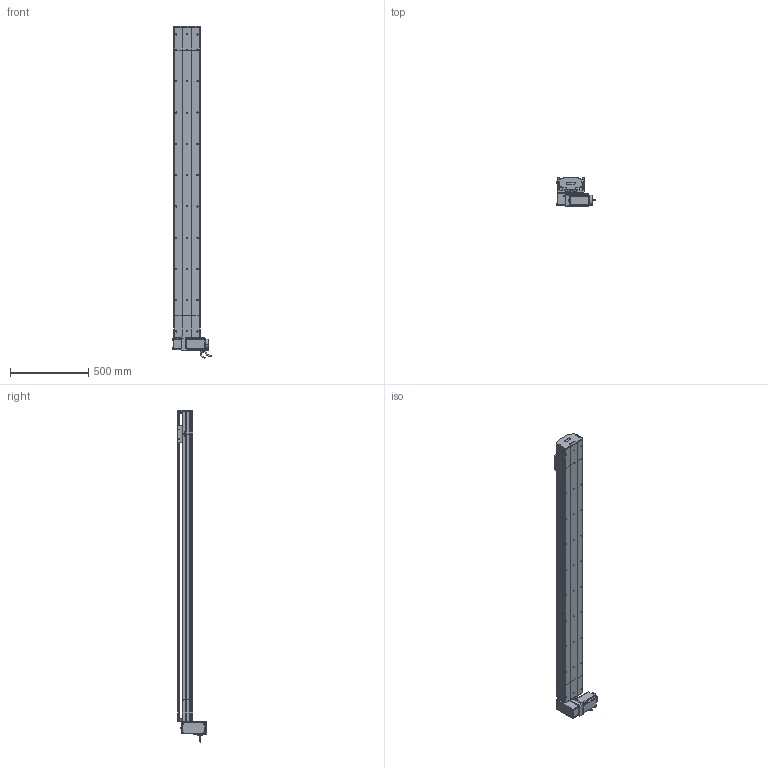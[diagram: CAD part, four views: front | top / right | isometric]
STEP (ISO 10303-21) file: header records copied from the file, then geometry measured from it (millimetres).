
FILE_DESCRIPTION (( 'STEP AP214' ), '1' );
FILE_NAME ('D17 TBN RU S1700.STEP', '2010-06-30T11:06:36', ( 'Christophe Gaillard' ), ( 'SGA' ), 'SwSTEP 2.0', 'SolidWorks 2010', '' );
FILE_SCHEMA (( 'AUTOMOTIVE_DESIGN' ));
Length unit declared in the file: millimetre
Products named in the file (40): poulie head_Default; couroie head D17_Default; avant 90BLDC125A-640; Moteur motionking 90BLDC125A-640; codeur 90BLDC125-640; corps 90BLDC125A-640; Tail D17B+100_Default; Renvoi RU_Default; tete d''axe poulie D17B; corp tail D17B+100_Default; plaque de  bout tail D17B_Default; Rail D17B; poulie tail_Default; Couroie tail D17B_Default; vis M5 L12_Default; couvercle D17B_Default; vis M5 L8 90°_Default; vis M5 L25_Default; chariot D17 TBN; D17 TBN RU S1700; course 1700 D17B_Default; Couroie+ rail D17 Course 1700 ; guide D17; corp D17B 1700_Default; Conecteur2_Default; Conecteur_Default; vis M5 L70_Default; Plaque racord D17_Default; vis M5 L16_Default; Vis M5 L16-2_Default; cache arbre D17_Default; Chariot D17 TBN; couvercle D17B course L1700_Default; Head RU D17B_Default; corpl head D17 _Default; couvercle D17B head_Default; plaque de  bout head D17B RU_Default; Arbre+rail head D17B; cache D17_Default; vis M5 L5_Default
Assembly tree (66 placements, depth 4):
  D17 TBN RU S1700
    course 1700 D17B_Default
      Couroie+ rail D17 Course 1700 
      corp D17B 1700_Default
      couvercle D17B course L1700_Default
    Head RU D17B_Default
      poulie head_Default
      vis M5 L12_Default  x8
      couroie head D17_Default
      vis M5 L5_Default  x4
      couvercle D17B head_Default
      cache arbre D17_Default
      vis M5 L70_Default  x4
      cache D17_Default  x2
      vis M5 L25_Default  x2
      vis M5 L16_Default  x2
      Plaque racord D17_Default
      Vis M5 L16-2_Default  x4
      plaque de  bout head D17B RU_Default
      Arbre+rail head D17B
      corpl head D17 _Default
      Moteur motionking 90BLDC125A-640
        corps 90BLDC125A-640
        codeur 90BLDC125-640
        avant 90BLDC125A-640
        Conecteur_Default
        Conecteur2_Default
      Renvoi RU_Default
    chariot D17 TBN
      Chariot D17 TBN
      guide D17  x2
    Tail D17B+100_Default
      tete d''axe poulie D17B
      corp tail D17B+100_Default
      vis M5 L12_Default  x4
      vis M5 L25_Default  x2
      poulie tail_Default
      couvercle D17B_Default
      vis M5 L8 90°_Default  x2
      Couroie tail D17B_Default
      Rail D17B
      plaque de  bout tail D17B_Default
Bounding box: 245.2 x 188.65 x 2123.95 mm (x, y, z)
Volume: 12624302.2 mm3; surface area: 3617913.9 mm2
Topology: 89 solids, 89 shells, 2583 faces, 6579 edges, 4242 vertices
Faces by surface type: plane 1537, cylinder 749, bspline 136, cone 80, torus 77, sphere 4
Entity records: 83589 total; most frequent: CARTESIAN_POINT 24937, ORIENTED_EDGE 10330, DIRECTION 9758, EDGE_CURVE 5165, VECTOR 3444, LINE 3444, VERTEX_POINT 3386, AXIS2_PLACEMENT_3D 3157
